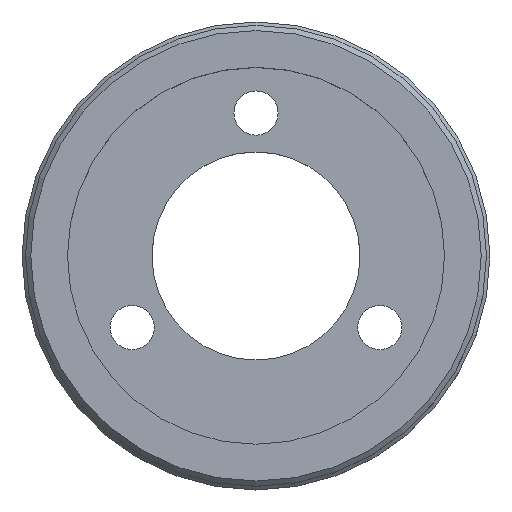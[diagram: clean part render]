
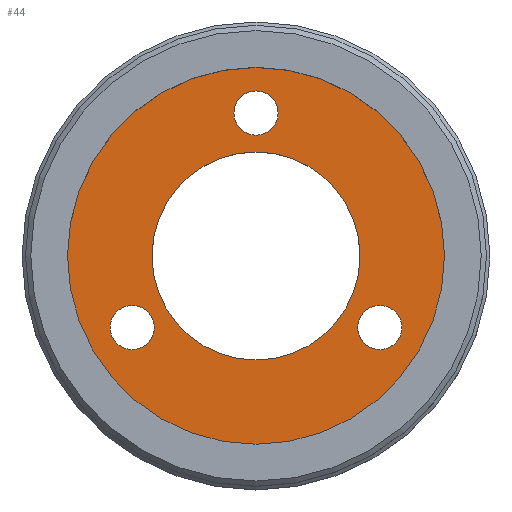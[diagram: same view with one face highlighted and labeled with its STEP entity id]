
A CAD part, top view. The second image highlights one B-rep face of the part: STEP entity #44.
In plain terms, the highlighted planar face has unit normal (0, 0, 1).
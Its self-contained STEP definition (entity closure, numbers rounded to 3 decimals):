
#39=PLANE('',#223);
#44=ADVANCED_FACE('',(#71,#72,#73,#74,#75),#39,.F.);
#71=FACE_BOUND('',#103,.T.);
#72=FACE_BOUND('',#104,.T.);
#73=FACE_BOUND('',#105,.T.);
#74=FACE_BOUND('',#106,.T.);
#75=FACE_BOUND('',#107,.T.);
#103=EDGE_LOOP('',(#135));
#104=EDGE_LOOP('',(#136));
#105=EDGE_LOOP('',(#137));
#106=EDGE_LOOP('',(#138));
#107=EDGE_LOOP('',(#139));
#135=ORIENTED_EDGE('',*,*,#182,.T.);
#136=ORIENTED_EDGE('',*,*,#183,.T.);
#137=ORIENTED_EDGE('',*,*,#184,.T.);
#138=ORIENTED_EDGE('',*,*,#181,.T.);
#139=ORIENTED_EDGE('',*,*,#185,.F.);
#165=VERTEX_POINT('',#317);
#166=VERTEX_POINT('',#320);
#167=VERTEX_POINT('',#322);
#168=VERTEX_POINT('',#324);
#169=VERTEX_POINT('',#326);
#181=EDGE_CURVE('',#165,#165,#197,.T.);
#182=EDGE_CURVE('',#166,#166,#198,.T.);
#183=EDGE_CURVE('',#167,#167,#199,.T.);
#184=EDGE_CURVE('',#168,#168,#200,.T.);
#185=EDGE_CURVE('',#169,#169,#201,.T.);
#197=CIRCLE('',#217,8.);
#198=CIRCLE('',#219,1.7);
#199=CIRCLE('',#220,1.7);
#200=CIRCLE('',#221,1.7);
#201=CIRCLE('',#222,14.5);
#217=AXIS2_PLACEMENT_3D('',#316,#260,#261);
#219=AXIS2_PLACEMENT_3D('',#319,#264,#265);
#220=AXIS2_PLACEMENT_3D('',#321,#266,#267);
#221=AXIS2_PLACEMENT_3D('',#323,#268,#269);
#222=AXIS2_PLACEMENT_3D('',#325,#270,#271);
#223=AXIS2_PLACEMENT_3D('',#327,#272,#273);
#260=DIRECTION('',(0.,0.,-1.));
#261=DIRECTION('',(-1.,0.,0.));
#264=DIRECTION('',(0.,0.,-1.));
#265=DIRECTION('',(-1.,0.,0.));
#266=DIRECTION('',(0.,0.,-1.));
#267=DIRECTION('',(-1.,0.,0.));
#268=DIRECTION('',(0.,0.,-1.));
#269=DIRECTION('',(-1.,0.,0.));
#270=DIRECTION('',(0.,0.,-1.));
#271=DIRECTION('',(-1.,0.,0.));
#272=DIRECTION('',(0.,0.,-1.));
#273=DIRECTION('',(-1.,0.,0.));
#316=CARTESIAN_POINT('',(0.,0.,2.6));
#317=CARTESIAN_POINT('',(-8.,0.,2.6));
#319=CARTESIAN_POINT('',(9.526,-5.5,2.6));
#320=CARTESIAN_POINT('',(7.826,-5.5,2.6));
#321=CARTESIAN_POINT('',(-9.526,-5.5,2.6));
#322=CARTESIAN_POINT('',(-11.226,-5.5,2.6));
#323=CARTESIAN_POINT('',(0.,11.,2.6));
#324=CARTESIAN_POINT('',(-1.7,11.,2.6));
#325=CARTESIAN_POINT('',(0.,0.,2.6));
#326=CARTESIAN_POINT('',(-14.5,0.,2.6));
#327=CARTESIAN_POINT('',(0.,0.,2.6));
